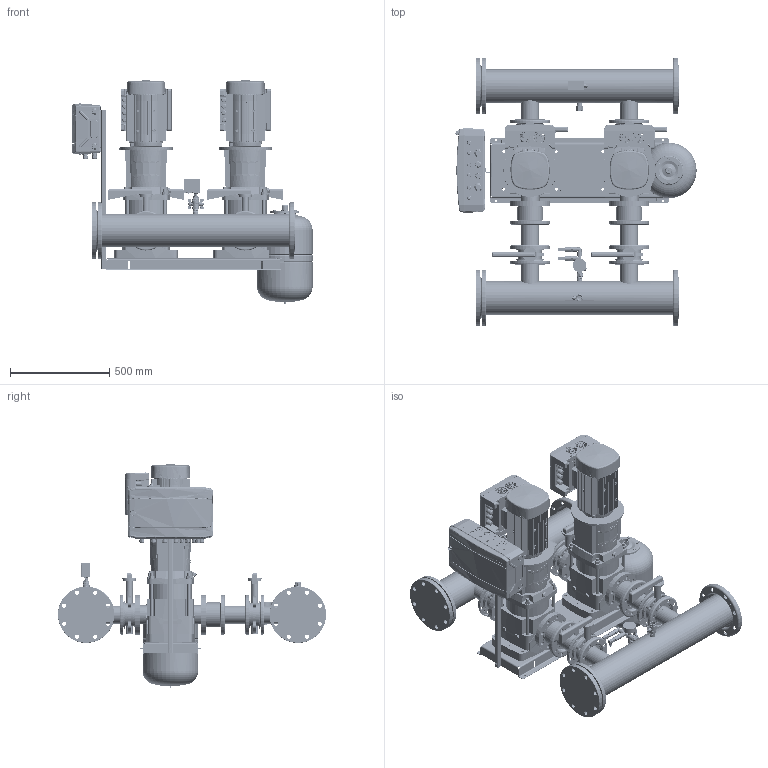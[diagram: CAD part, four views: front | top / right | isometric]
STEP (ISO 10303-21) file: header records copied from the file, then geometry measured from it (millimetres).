
FILE_DESCRIPTION(('CATIA V5 STEP Exchange','CAx-IF Rec.Pracs.--- Model Styling and Organization---1.4--- 2014-01-23','CAx-IF Rec.Pracs.---3D Tessellated Data Validation Properties---0.5---2014-09-14'),'2;1');
FILE_NAME('C:\Users\78432\YandexDisk\Drawings and 3D\3D Hydro Booster\Hydro-ME 3D\Hydro Models\Hydro ME 2 CRV45-xx\Hydro ME 2 CRVE45-1-1.stp','2023-09-20T13:40:31+00:00',('none'),('none'),'CATIA Version 5-6 Release 2019 SP6','CATIA V5 STEP AP242 v1','none');
FILE_SCHEMA(('AP242_MANAGED_MODEL_BASED_3D_ENGINEERING_MIM_LF {1 0 10303 442 1 1 4}'));
Length unit declared in the file: millimetre
Products named in the file (52): Hydro ME 2 CRVE45-1-1; 92051010; CRV45-1-1 set; CRV 45-1-1_DIN_3kW; Base; Flange.1; Flange.2; Sleeve; Pumphead; Staybolt.1; Staybolt.2; Staybolt.3; Staybolt.4; AirVent; Motor; Plug; Non-Return Valve DN80 cpl.; 92802787; 00id2588; Buttefly Valve DN80 cpl.; 92802780; 96619630#01_GMR; 91070073; 91071907; 99110037; SAJ PDH30 4-7,5kW; 97941448; 405801; 91041071; 91070076; 99110040; 97941485; 00ID6961; Holder and CP 18mod; 92878909; Control ME (18mod); 2 sensors + manometer cpl.; manometr 16 bar; RPD-I-G1_2; 9021-01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
Assembly tree (69 placements, depth 4):
  Hydro ME 2 CRVE45-1-1
    92051010
    CRV45-1-1 set  x2
      CRV 45-1-1_DIN_3kW
        Base
        Flange.1
        Flange.2
        Sleeve
        Pumphead
        Staybolt.1
        Staybolt.2
        Staybolt.3
        Staybolt.4
        AirVent
        Motor
        Plug
      Non-Return Valve DN80 cpl.
        92802787
        00id2588  x2
      Buttefly Valve DN80 cpl.
        92802780
        00id2588  x2
      96619630#01_GMR
        91070073  x2
        91071907
        99110037  x2
      SAJ PDH30 4-7,5kW
    97941448  x2
      405801
      91041071
      91070073
      91070076
      99110037
      99110040
      97941485
    00ID6961  x2
    Holder and CP 18mod
      92878909
      Control ME (18mod)
    2 sensors + manometer cpl.
      manometr 16 bar
      RPD-I-G1_2  x2
      9021-01
      2070 1/2-1/2
      _2020 1/2-1/2
      98594078
    Tank 24L cpl.
      DN20_FF_BF_47.300.20
      9021-03
    Relay cpl.
      Relay RD-2R
      DN20_FF_BF_47.300.20
      2530 3/4-1/2
      _2530 1/2-1/4
    91078139
  WAV-24(D140 1'')
Bounding box: 1216.82 x 1352.3 x 1127.73 mm (x, y, z)
Volume: 118117678.3 mm3; surface area: 12334555.4 mm2
Topology: 220 solids, 444 shells, 22967 faces, 65534 edges, 44136 vertices
Faces by surface type: plane 10014, cylinder 5537, bspline 5004, cone 1779, torus 484, sphere 149
Entity records: 626828 total; most frequent: CARTESIAN_POINT 312790, ORIENTED_EDGE 79877, EDGE_CURVE 40479, DIRECTION 37542, VERTEX_POINT 27136, VECTOR 17612, LINE 17612, EDGE_LOOP 16052
